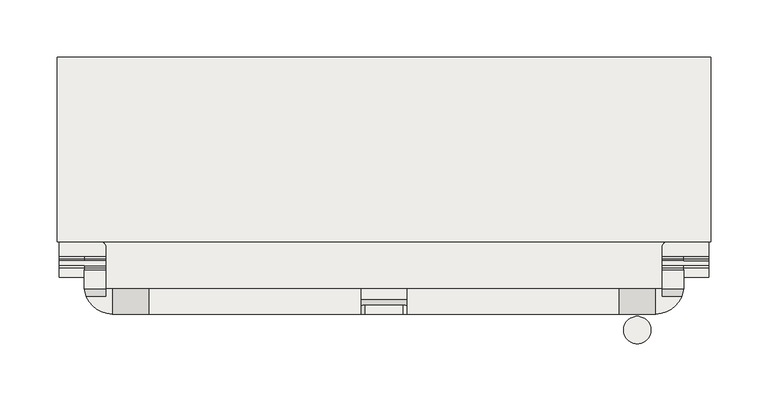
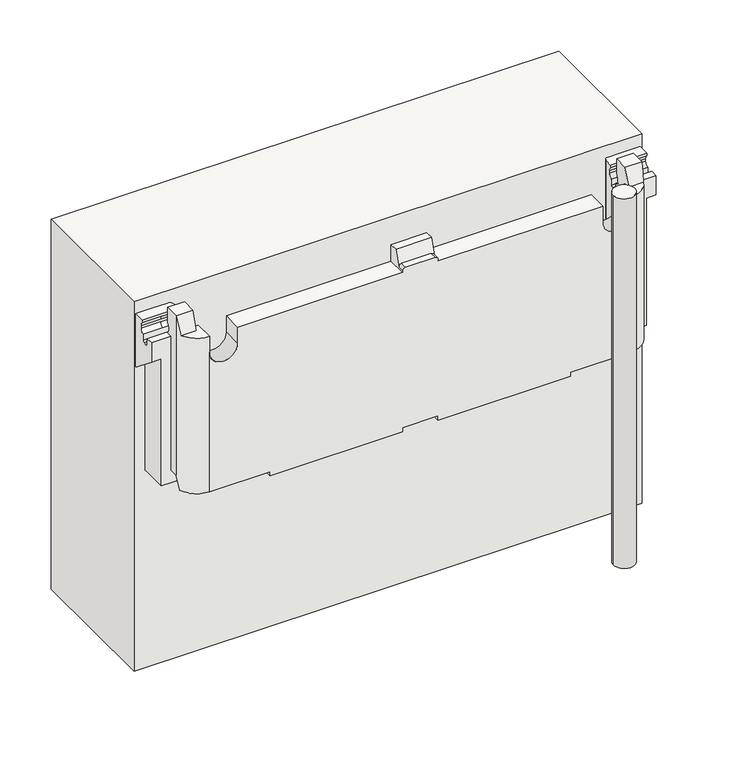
"""IFC4 building model written with IfcOpenShell, lengths in millimetres: covering geometry, panel VP Modulo prova ultima texture : panel VP Modulo prova ultima texture."""

from ifc_helpers import new_model, si_unit, point, frame, frame_2d, origin, origin_with_axes, place, context, project, spatial, polyline, circle_curve, ellipse_curve, trimmed, segment, composite_curve, outline, extrude, source, transform, mapped, element, save
from ifc_brep_helpers import plane_surface, cylinder_surface, revolved_surface, advanced_brep


def covering_c7b0dbd7(model_context):
    return source(origin(), model_context, "Body", "SolidModel", [
        advanced_brep(
        [(-20.0, 40.503817, 440.3791993), (-20.0, 49.5015434, 440.3791993), (-20.0, 49.5015434, 420.3821425), (-20.0, 27.5015432, 420.3821425), (-20.0, 27.5015432, 422.3821424), (-20.0, 34.5021229, 422.3821424), (20.0, 49.5015434, 440.3791993), (20.0, 40.503817, 440.3791993), (20.0, 34.5021229, 422.3821424), (20.0, 27.5015432, 422.3821424), (20.0, 27.5015432, 420.3821425), (20.0, 49.5015434, 420.3821425), (-17.0, 35.5025688, 425.3821424), (17.0, 35.5025688, 425.3821424), (17.0, 27.5015432, 425.3821424), (-17.0, 27.5015432, 425.3821424), (-262.4808119, 49.5015434, 440.3770182), (-262.4808119, 65.772467, 440.3770182), (-262.4808119, 65.772467, 422.4339741), (-262.4808119, 63.7739273, 417.538463), (-262.4808119, 63.7739273, 414.538463), (-262.4808119, 67.7745502, 409.8422632), (-262.4808119, 59.5, 409.8422632), (-262.4808119, 59.5, 250.3778557), (-262.4808119, 49.5015434, 250.3778557), (262.4808119, 67.7745502, 409.8422632), (262.4808119, 63.7739273, 414.538463), (262.4808119, 63.7739273, 417.538463), (262.4808119, 65.772467, 422.4339741), (262.4808119, 65.772467, 440.3770182), (262.4808119, 49.5015434, 440.3770182), (262.4808119, 49.5015434, 250.3778557), (262.4808119, 59.5, 250.3778557), (262.4808119, 59.5, 409.8422632), (205.7808119, 27.5015432, 420.3821425), (205.7808119, 49.5015434, 420.3821425), (243.7808119, 42.6167555, 420.3821425), (243.7808119, 49.5015434, 420.3821425), (237.7808119, 49.5015434, 420.3821425), (237.7808119, 27.5015432, 420.3821425), (260.6550436, 42.6167555, 420.3821425), (-237.7808119, 27.5015432, 420.3821425), (-237.7808119, 49.5015434, 420.3821425), (-243.7808119, 49.5015434, 420.3821425), (-243.7808119, 42.6167555, 420.3821425), (-260.6550436, 42.6167555, 420.3821425), (-205.7808119, 49.5015434, 420.3821425), (-205.7808119, 27.5015432, 420.3821425), (-262.4808119, 109.8415131, 257.378532), (262.4808119, 109.8415131, 257.378532), (262.4808119, 141.2113001, 285.0190246), (-262.4808119, 141.2113001, 285.0190246), (-262.4808119, 147.3447094, 291.4812522), (262.4808119, 147.3447094, 291.4812522), (262.4808119, 184.4941844, 338.3639074), (-262.4808119, 184.4941844, 338.3639074), (262.4808119, 184.4941844, 365.3627622), (-262.4808119, 184.4941844, 365.3627622), (284.4808119, 184.4914281, 365.3627622), (284.4808119, 202.488872, 365.3627622), (-284.4808119, 202.488872, 365.3627622), (-284.4808119, 184.4914281, 365.3627622), (-284.4808119, 202.488872, 325.6494871), (284.4808119, 202.488872, 325.6494871), (262.4808119, 193.4423608, 284.2709563), (-262.4808119, 193.4423608, 284.2709563), (-284.4808119, 193.4423608, 284.2709563), (284.4808119, 193.4423608, 284.2709563), (262.4808119, 190.281945, 283.1432662), (-262.4808119, 190.281945, 283.1432662), (284.4808119, 190.281945, 283.1432662), (284.4808119, 59.5, 386.7739206), (273.4808119, 59.5, 386.7739206), (273.4808119, 180.2456216, 291.0959753), (262.4808119, 180.2456216, 291.0959753), (-262.4808119, 180.2456216, 291.0959753), (-273.4808119, 180.2456216, 291.0959753), (-273.4808119, 59.5, 386.7739206), (-284.4808119, 59.5, 386.7739206), (-284.4808119, 190.281945, 283.1432662), (262.4808119, 174.5899002, 290.4408933), (-262.4808119, 174.5899002, 290.4408933), (273.4808119, 174.5899002, 290.4408933), (273.4808119, 160.5878776, 272.7703691), (-273.4808119, 160.5878776, 272.7703691), (-273.4808119, 174.5899002, 290.4408933), (-273.4808119, 118.1414154, 235.3700156), (273.4808119, 118.1414154, 235.3700156), (237.7808119, 118.1414154, 235.3700156), (197.7808119, 118.1414154, 235.3700156), (20.0, 118.1414154, 235.3700156), (-20.0, 118.1414154, 235.3700156), (-197.7808119, 118.1414154, 235.3700156), (-237.7808119, 118.1414154, 235.3700156), (-273.4808119, 59.5, 235.3821441), (-237.7808119, 78.1414154, 235.3821441), (-197.7808119, 78.1414154, 235.3821441), (-20.0, 78.1414154, 235.3821441), (20.0, 78.1414154, 235.3821441), (197.7808119, 78.1414154, 235.3821441), (237.7808119, 78.1414154, 235.3821441), (273.4808119, 59.5, 235.3821441), (252.4808119, 59.5, 235.3821441), (252.4808119, 44.6291413, 235.3821441), (261.4118126, 44.6291413, 235.3821441), (237.7808119, 27.5015432, 235.3821441), (169.4808119, 27.5015432, 235.3821441), (169.4808119, 67.5015432, 235.3821441), (20.0, 67.5015432, 235.3821441), (20.0, 27.5015432, 235.3821441), (-20.0, 27.5015432, 235.3821441), (-20.0, 67.5015432, 235.3821441), (-169.4808119, 67.5015432, 235.3821441), (-169.4808119, 27.5015432, 235.3821441), (-237.7808119, 27.5015432, 235.3821441), (-261.4118126, 44.6291413, 235.3821441), (-252.4808119, 44.6291413, 235.3821441), (-252.4808119, 59.5, 235.3821441), (-205.7808119, 27.5015432, 401.3586119), (-237.7808119, 27.5015432, 401.3586119), (-169.4808119, 27.5015432, 230.3725587), (-20.0, 27.5015432, 230.3725587), (20.0, 27.5015432, 230.3725587), (169.4808119, 27.5015432, 230.3725587), (237.7808119, 27.5015432, 401.3586119), (205.7808119, 27.5015432, 401.3586119), (-237.7808119, 49.5015434, 401.3586119), (-205.7808119, 49.5015434, 401.3586119), (205.7808119, 49.5015434, 401.3586119), (237.7808119, 49.5015434, 401.3586119), (243.7808119, 49.5015434, 257.378532), (-243.7808119, 49.5015434, 257.378532), (-262.4808119, 101.3665857, 257.378532), (-251.8742102, 90.7599839, 257.378532), (-248.1742102, 90.7599839, 257.378532), (-243.7808119, 86.3665857, 257.378532), (243.7808119, 86.3665857, 257.378532), (248.1742102, 90.7599839, 257.378532), (251.8742102, 90.7599839, 257.378532), (262.4808119, 101.3665857, 257.378532), (-284.4808119, 59.5, 409.8422632), (-284.4808119, 67.7745502, 409.8422632), (-284.4808119, 67.7745502, 402.8424284), (-284.4808119, 69.7745502, 400.8424284), (-284.4808119, 74.0001297, 400.8424284), (-284.4808119, 76.0001297, 402.8424284), (-284.4808119, 76.0001297, 409.8422632), (-284.4808119, 80.0007527, 414.538463), (-284.4808119, 80.0007527, 417.538463), (-284.4808119, 78.002213, 422.4339741), (-284.4808119, 78.002213, 425.3856889), (-284.4808119, 115.166168, 425.3856889), (-284.4808119, 118.166168, 422.3856889), (-284.4808119, 118.166168, 406.1051366), (-284.4808119, 119.6447617, 403.5195374), (-262.4808119, 119.6447617, 403.5195374), (-262.4808119, 118.166168, 406.1051366), (-262.4808119, 118.166168, 422.3856889), (-262.4808119, 115.166168, 425.3856889), (-262.4808119, 101.3665857, 425.3856889), (-252.4808119, 59.5, 250.3778557), (-243.7808119, 67.7745502, 409.8422632), (-243.7808119, 67.7745502, 402.8424284), (-262.4808119, 67.7745502, 402.8424284), (-262.4808119, 69.7745502, 400.8424284), (-243.7808119, 69.7745502, 400.8424284), (-243.7808119, 74.0001297, 400.8424284), (-262.4808119, 74.0001297, 400.8424284), (-262.4808119, 76.0001297, 402.8424284), (-243.7808119, 76.0001297, 402.8424284), (-243.7808119, 76.0001297, 409.8422632), (-262.4808119, 76.0001297, 409.8422632), (-262.4808119, 80.0007527, 414.538463), (-243.7808119, 80.0007527, 414.538463), (-243.7808119, 80.0007527, 417.538463), (-262.4808119, 80.0007527, 417.538463), (-262.4808119, 78.002213, 422.4339741), (-243.7808119, 78.002213, 422.4339741), (-243.7808119, 78.002213, 425.3856889), (-243.7808119, 86.3665857, 425.3856889), (-248.1742102, 90.7599839, 425.3856889), (-251.8742102, 90.7599839, 425.3856889), (-243.7808119, 63.7739273, 414.538463), (-243.7808119, 63.7739273, 417.538463), (-243.7808119, 65.772467, 422.4339741), (-243.7808119, 65.772467, 440.3770182), (-243.7808119, 49.5015434, 440.3770182), (284.4808119, 119.6447617, 403.5195374), (284.4808119, 118.166168, 406.1051366), (284.4808119, 118.166168, 422.3856889), (284.4808119, 115.166168, 425.3856889), (284.4808119, 78.002213, 425.3856889), (284.4808119, 78.002213, 422.4339741), (284.4808119, 80.0007527, 417.538463), (284.4808119, 80.0007527, 414.538463), (284.4808119, 76.0001297, 409.8422632), (284.4808119, 76.0001297, 402.8424284), (284.4808119, 74.0001297, 400.8424284), (284.4808119, 69.7745502, 400.8424284), (284.4808119, 67.7745502, 402.8424284), (284.4808119, 67.7745502, 409.8422632), (284.4808119, 59.5, 409.8422632), (262.4808119, 115.166168, 425.3856889), (262.4808119, 118.166168, 422.3856889), (262.4808119, 118.166168, 406.1051366), (262.4808119, 119.6447617, 403.5195374), (262.4808119, 101.3665857, 425.3856889), (252.4808119, 59.5, 250.3778557), (262.4808119, 69.7745502, 400.8424284), (262.4808119, 67.7745502, 402.8424284), (262.4808119, 76.0001297, 402.8424284), (262.4808119, 74.0001297, 400.8424284), (262.4808119, 80.0007527, 414.538463), (262.4808119, 76.0001297, 409.8422632), (262.4808119, 78.002213, 422.4339741), (262.4808119, 80.0007527, 417.538463), (243.7808119, 49.5015434, 440.3770182), (243.7808119, 65.772467, 440.3770182), (243.7808119, 65.772467, 422.4339741), (243.7808119, 63.7739273, 417.538463), (243.7808119, 63.7739273, 414.538463), (243.7808119, 67.7745502, 409.8422632), (243.7808119, 67.7745502, 402.8424284), (243.7808119, 69.7745502, 400.8424284), (243.7808119, 74.0001297, 400.8424284), (243.7808119, 76.0001297, 402.8424284), (243.7808119, 76.0001297, 409.8422632), (243.7808119, 80.0007527, 414.538463), (243.7808119, 80.0007527, 417.538463), (243.7808119, 78.002213, 422.4339741), (243.7808119, 78.002213, 425.3856889), (243.7808119, 86.3665857, 425.3856889), (251.8742102, 90.7599839, 425.3856889), (248.1742102, 90.7599839, 425.3856889), (237.7808119, 78.1414154, 230.3725587), (197.7808119, 78.1414154, 230.3725587), (197.7808119, 118.1414154, 230.3725587), (237.7808119, 118.1414154, 230.3725587), (-20.0, 78.1414154, 230.3725587), (-20.0, 118.1414154, 230.3725587), (20.0, 118.1414154, 230.3725587), (20.0, 78.1414154, 230.3725587), (-237.7808119, 78.1414154, 230.3725587), (-237.7808119, 118.1414154, 230.3725587), (-197.7808119, 118.1414154, 230.3725587), (-197.7808119, 78.1414154, 230.3725587), (20.0, 67.5015432, 230.3725587), (169.4808119, 67.5015432, 230.3725587), (-20.0, 67.5015432, 230.3725587), (-169.4808119, 67.5015432, 230.3725587), (-252.4808119, 49.5015434, 250.3778557), (252.4808119, 49.5015434, 250.3778557)],
        [
            (0, 1),
            (1, 2),
            (2, 3),
            (3, 4),
            (4, 5),
            (5, 0),
            (6, 7),
            (7, 8),
            (8, 9),
            (9, 10),
            (10, 11),
            (11, 6),
            (0, 7),
            (6, 1),
            (5, 12, ellipse_curve(frame((-17.0, 34.5021229, 422.3821424), z_axis=(0.0, 0.9486409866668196, -0.31635467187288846), x_axis=(0.0, 0.31635467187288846, 0.9486409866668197)), 3.1624187, 3.0)),
            (12, 13),
            (13, 8, ellipse_curve(frame((17.0, 34.5021229, 422.3821424), z_axis=(0.0, 0.9486409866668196, -0.31635467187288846), x_axis=(0.0, 0.31635467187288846, 0.9486409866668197)), 3.1624187, 3.0)),
            (14, 9, circle_curve(frame((17.0, 27.5015432, 422.3821424), z_axis=(0.0, 1.0, 0.0), x_axis=(-1.0, 0.0, 0.0)), 3.0)),
            (13, 14),
            (4, 15, circle_curve(frame((-17.0, 27.5015432, 422.3821424), z_axis=(0.0, 1.0, 0.0), x_axis=(-1.0, 0.0, 0.0)), 3.0)),
            (15, 12),
            (15, 14),
            (16, 17),
            (17, 18),
            (18, 19, circle_curve(frame((-262.4808119, 70.7690822, 417.538463), z_axis=(1.0, 0.0, 0.0), x_axis=(0.0, -1.0, 0.0)), 6.9951549)),
            (19, 20),
            (20, 21, circle_curve(frame((-262.4808119, 68.5305961, 414.538463), z_axis=(1.0, 0.0, 0.0), x_axis=(0.0, -1.0, 0.0)), 4.7566689)),
            (21, 22),
            (22, 23),
            (23, 24),
            (24, 16),
            (25, 26, circle_curve(frame((262.4808119, 68.5305961, 414.538463), z_axis=(-1.0, 0.0, 0.0), x_axis=(0.0, -1.0, 0.0)), 4.7566689)),
            (26, 27),
            (27, 28, circle_curve(frame((262.4808119, 70.7690822, 417.538463), z_axis=(-1.0, 0.0, 0.0), x_axis=(0.0, -1.0, 0.0)), 6.9951549)),
            (28, 29),
            (29, 30),
            (30, 31),
            (31, 32),
            (32, 33),
            (33, 25),
            (10, 34),
            (34, 35),
            (35, 11),
            (36, 37),
            (37, 38),
            (38, 39),
            (39, 40, circle_curve(frame((237.7808119, 52.367225, 420.3821425), z_axis=(0.0, 0.0, 1.0), x_axis=(1.0, 0.0, 0.0)), 24.8656818)),
            (40, 36),
            (41, 42),
            (42, 43),
            (43, 44),
            (44, 45),
            (45, 41, circle_curve(frame((-237.7808119, 52.367225, 420.3821425), z_axis=(0.0, 0.0, 1.0), x_axis=(-1.0, 0.0, 0.0)), 24.8656818)),
            (46, 47),
            (47, 3),
            (2, 46),
            (48, 49),
            (49, 50),
            (50, 51),
            (51, 48),
            (52, 53),
            (53, 54),
            (54, 55),
            (55, 52),
            (54, 56),
            (56, 57),
            (57, 55),
            (56, 58),
            (58, 59),
            (59, 60),
            (60, 61),
            (61, 57),
            (62, 60),
            (59, 63),
            (63, 62),
            (64, 65),
            (65, 66),
            (66, 62),
            (63, 67),
            (67, 64),
            (64, 68, circle_curve(frame((262.4808119, 191.5102381, 284.6933727), z_axis=(-1.0, 0.0, 0.0), x_axis=(0.0, -1.0, 0.0)), 1.9777598)),
            (68, 69),
            (69, 65, circle_curve(frame((-262.4808119, 191.5102381, 284.6933727), z_axis=(1.0, 0.0, 0.0), x_axis=(0.0, -1.0, 0.0)), 1.9777598)),
            (68, 70),
            (70, 71),
            (71, 72),
            (72, 73),
            (73, 74),
            (74, 75),
            (75, 76),
            (76, 77),
            (77, 78),
            (78, 79),
            (79, 69),
            (74, 80, circle_curve(frame((262.4808119, 177.7453022, 287.9405708), z_axis=(1.0, 0.0, 0.0), x_axis=(0.0, -1.0, 0.0)), 4.0259377)),
            (80, 81),
            (81, 75, circle_curve(frame((-262.4808119, 177.7453022, 287.9405708), z_axis=(-1.0, 0.0, 0.0), x_axis=(0.0, -1.0, 0.0)), 4.0259377)),
            (80, 82),
            (82, 83),
            (83, 84),
            (84, 85),
            (85, 81),
            (86, 84),
            (83, 87),
            (87, 88),
            (88, 89),
            (89, 90),
            (90, 91),
            (91, 92),
            (92, 93),
            (93, 86),
            (50, 53, circle_curve(frame((262.4808119, 108.1562691, 322.5338873), z_axis=(1.0, 0.0, 0.0), x_axis=(0.0, -1.0, 0.0)), 50.0)),
            (52, 51, circle_curve(frame((-262.4808119, 108.1562691, 322.5338873), z_axis=(-1.0, 0.0, 0.0), x_axis=(0.0, -1.0, 0.0)), 50.0)),
            (94, 86),
            (93, 95),
            (95, 96),
            (96, 92),
            (91, 97),
            (97, 98),
            (98, 90),
            (89, 99),
            (99, 100),
            (100, 88),
            (87, 101),
            (101, 102),
            (102, 103),
            (103, 104),
            (104, 105, circle_curve(frame((237.7808119, 52.367225, 235.3821441), z_axis=(0.0, 0.0, -1.0), x_axis=(1.0, 0.0, 0.0)), 24.8656818)),
            (105, 106),
            (106, 107),
            (107, 108),
            (108, 109),
            (109, 110),
            (110, 111),
            (111, 112),
            (112, 113),
            (113, 114),
            (114, 115, circle_curve(frame((-237.7808119, 52.367225, 235.3821441), z_axis=(0.0, 0.0, -1.0), x_axis=(-1.0, 0.0, 0.0)), 24.8656818)),
            (115, 116),
            (116, 117),
            (117, 94),
            (47, 118),
            (118, 119, circle_curve(frame((-221.7808119, 27.5015432, 401.3586119), z_axis=(0.0, 1.0, 0.0), x_axis=(-1.0, 0.0, 0.0)), 16.0)),
            (119, 114),
            (113, 120),
            (120, 121),
            (121, 110),
            (109, 122),
            (122, 123),
            (123, 106),
            (105, 124),
            (124, 125, circle_curve(frame((221.7808119, 27.5015432, 401.3586119), z_axis=(0.0, 1.0, 0.0), x_axis=(1.0, 0.0, 0.0)), 16.0)),
            (125, 34),
            (42, 126),
            (126, 127, circle_curve(frame((-221.7808119, 49.5015434, 401.3586119), z_axis=(0.0, -1.0, 0.0), x_axis=(-1.0, 0.0, 0.0)), 16.0)),
            (127, 46),
            (35, 128),
            (128, 129, circle_curve(frame((221.7808119, 49.5015434, 401.3586119), z_axis=(0.0, -1.0, 0.0), x_axis=(1.0, 0.0, 0.0)), 16.0)),
            (129, 38),
            (37, 130),
            (130, 131),
            (131, 43),
            (48, 132),
            (132, 133, circle_curve(frame((-251.8742102, 101.3665857, 257.378532), z_axis=(0.0, 0.0, 1.0), x_axis=(-1.0, 0.0, 0.0)), 10.6066017)),
            (133, 134),
            (134, 135, circle_curve(frame((-248.1742102, 86.3665857, 257.378532), z_axis=(0.0, 0.0, -1.0), x_axis=(-1.0, 0.0, 0.0)), 4.3933983)),
            (135, 131),
            (130, 136),
            (136, 137, circle_curve(frame((248.1742102, 86.3665857, 257.378532), z_axis=(0.0, 0.0, -1.0), x_axis=(1.0, 0.0, 0.0)), 4.3933983)),
            (137, 138),
            (138, 139, circle_curve(frame((251.8742102, 101.3665857, 257.378532), z_axis=(0.0, 0.0, 1.0), x_axis=(1.0, 0.0, 0.0)), 10.6066017)),
            (139, 49),
            (66, 79, circle_curve(frame((-284.4808119, 191.5102381, 284.6933727), z_axis=(-1.0, 0.0, 0.0), x_axis=(0.0, -1.0, 0.0)), 1.9777598)),
            (78, 140),
            (140, 141),
            (141, 142),
            (142, 143, circle_curve(frame((-284.4808119, 69.7745502, 402.8424284), z_axis=(1.0, 0.0, 0.0), x_axis=(0.0, -1.0, 0.0)), 2.0)),
            (143, 144),
            (144, 145, circle_curve(frame((-284.4808119, 74.0001297, 402.8424284), z_axis=(1.0, 0.0, 0.0), x_axis=(0.0, -1.0, 0.0)), 2.0)),
            (145, 146),
            (146, 147, circle_curve(frame((-284.4808119, 75.2440838, 414.538463), z_axis=(1.0, 0.0, 0.0), x_axis=(0.0, -1.0, 0.0)), 4.7566689)),
            (147, 148),
            (148, 149, circle_curve(frame((-284.4808119, 73.0055977, 417.538463), z_axis=(1.0, 0.0, 0.0), x_axis=(0.0, -1.0, 0.0)), 6.9951549)),
            (149, 150),
            (150, 151),
            (151, 152, circle_curve(frame((-284.4808119, 115.166168, 422.3856889), z_axis=(-1.0, 0.0, 0.0), x_axis=(0.0, -1.0, 0.0)), 3.0)),
            (152, 153),
            (153, 154, circle_curve(frame((-284.4808119, 121.166168, 406.1051366), z_axis=(1.0, 0.0, 0.0), x_axis=(0.0, -1.0, 0.0)), 3.0)),
            (154, 61),
            (57, 155),
            (155, 156, circle_curve(frame((-262.4808119, 121.166168, 406.1051366), z_axis=(-1.0, 0.0, 0.0), x_axis=(0.0, -1.0, 0.0)), 3.0)),
            (156, 157),
            (157, 158, circle_curve(frame((-262.4808119, 115.166168, 422.3856889), z_axis=(1.0, 0.0, 0.0), x_axis=(0.0, -1.0, 0.0)), 3.0)),
            (158, 159),
            (159, 132),
            (77, 94),
            (117, 160),
            (160, 23),
            (22, 140),
            (141, 21),
            (21, 161),
            (161, 162),
            (162, 163),
            (163, 142),
            (163, 164, circle_curve(frame((-262.4808119, 69.7745502, 402.8424284), z_axis=(1.0, 0.0, 0.0), x_axis=(0.0, -1.0, 0.0)), 2.0)),
            (164, 143),
            (164, 165),
            (165, 166),
            (166, 167),
            (167, 144),
            (167, 168, circle_curve(frame((-262.4808119, 74.0001297, 402.8424284), z_axis=(1.0, 0.0, 0.0), x_axis=(0.0, -1.0, 0.0)), 2.0)),
            (168, 145),
            (168, 169),
            (169, 170),
            (170, 171),
            (171, 146),
            (171, 172, circle_curve(frame((-262.4808119, 75.2440838, 414.538463), z_axis=(1.0, 0.0, 0.0), x_axis=(0.0, -1.0, 0.0)), 4.7566689)),
            (172, 147),
            (172, 173),
            (173, 174),
            (174, 175),
            (175, 148),
            (175, 176, circle_curve(frame((-262.4808119, 73.0055977, 417.538463), z_axis=(1.0, 0.0, 0.0), x_axis=(0.0, -1.0, 0.0)), 6.9951549)),
            (176, 149),
            (176, 177),
            (177, 178),
            (178, 150),
            (178, 179),
            (179, 180, circle_curve(frame((-248.1742102, 86.3665857, 425.3856889), z_axis=(0.0, 0.0, 1.0), x_axis=(-1.0, 0.0, 0.0)), 4.3933983)),
            (180, 181),
            (181, 159, circle_curve(frame((-251.8742102, 101.3665857, 425.3856889), z_axis=(0.0, 0.0, -1.0), x_axis=(-1.0, 0.0, 0.0)), 10.6066017)),
            (158, 151),
            (157, 152),
            (156, 153),
            (155, 154),
            (76, 85, circle_curve(frame((-273.4808119, 177.7453022, 287.9405708), z_axis=(1.0, 0.0, 0.0), x_axis=(0.0, -1.0, 0.0)), 4.0259377)),
            (45, 16, ellipse_curve(frame((-237.7808119, 52.367225, 448.6995619), z_axis=(0.0, 0.9455185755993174, -0.32556815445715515), x_axis=(0.0, -0.3255681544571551, -0.9455185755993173)), 76.3762716, 24.8656818)),
            (24, 115, ellipse_curve(frame((-237.7808119, 52.367225, 259.1975168), z_axis=(0.0, -0.9510565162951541, 0.3090169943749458), x_axis=(0.0, -0.30901699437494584, -0.9510565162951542)), 80.4670366, 24.8656818)),
            (119, 41),
            (177, 174, circle_curve(frame((-243.7808119, 73.0055977, 417.538463), z_axis=(-1.0, 0.0, 0.0), x_axis=(0.0, -1.0, 0.0)), 6.9951549)),
            (173, 170, circle_curve(frame((-243.7808119, 75.2440838, 414.538463), z_axis=(-1.0, 0.0, 0.0), x_axis=(0.0, -1.0, 0.0)), 4.7566689)),
            (169, 166, circle_curve(frame((-243.7808119, 74.0001297, 402.8424284), z_axis=(-1.0, 0.0, 0.0), x_axis=(0.0, -1.0, 0.0)), 2.0)),
            (165, 162, circle_curve(frame((-243.7808119, 69.7745502, 402.8424284), z_axis=(-1.0, 0.0, 0.0), x_axis=(0.0, -1.0, 0.0)), 2.0)),
            (161, 182, circle_curve(frame((-243.7808119, 68.5305961, 414.538463), z_axis=(-1.0, 0.0, 0.0), x_axis=(0.0, -1.0, 0.0)), 4.7566689)),
            (182, 183),
            (183, 184, circle_curve(frame((-243.7808119, 70.7690822, 417.538463), z_axis=(-1.0, 0.0, 0.0), x_axis=(0.0, -1.0, 0.0)), 6.9951549)),
            (184, 185),
            (185, 186),
            (186, 44),
            (135, 179),
            (16, 186),
            (185, 17),
            (184, 18),
            (183, 19),
            (182, 20),
            (134, 180),
            (133, 181),
            (39, 124),
            (104, 31, ellipse_curve(frame((237.7808119, 52.367225, 259.1975168), z_axis=(0.0, -0.9510565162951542, 0.3090169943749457), x_axis=(0.0, -0.3090169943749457, -0.9510565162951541)), 80.4670366, 24.8656818)),
            (30, 40, ellipse_curve(frame((237.7808119, 52.367225, 448.6995619), z_axis=(0.0, 0.9455185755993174, -0.3255681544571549), x_axis=(0.0, -0.3255681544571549, -0.9455185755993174)), 76.3762716, 24.8656818)),
            (58, 187),
            (187, 188, circle_curve(frame((284.4808119, 121.166168, 406.1051366), z_axis=(-1.0, 0.0, 0.0), x_axis=(0.0, -1.0, 0.0)), 3.0)),
            (188, 189),
            (189, 190, circle_curve(frame((284.4808119, 115.166168, 422.3856889), z_axis=(1.0, 0.0, 0.0), x_axis=(0.0, -1.0, 0.0)), 3.0)),
            (190, 191),
            (191, 192),
            (192, 193, circle_curve(frame((284.4808119, 73.0055977, 417.538463), z_axis=(-1.0, 0.0, 0.0), x_axis=(0.0, -1.0, 0.0)), 6.9951549)),
            (193, 194),
            (194, 195, circle_curve(frame((284.4808119, 75.2440838, 414.538463), z_axis=(-1.0, 0.0, 0.0), x_axis=(0.0, -1.0, 0.0)), 4.7566689)),
            (195, 196),
            (196, 197, circle_curve(frame((284.4808119, 74.0001297, 402.8424284), z_axis=(-1.0, 0.0, 0.0), x_axis=(0.0, -1.0, 0.0)), 2.0)),
            (197, 198),
            (198, 199, circle_curve(frame((284.4808119, 69.7745502, 402.8424284), z_axis=(-1.0, 0.0, 0.0), x_axis=(0.0, -1.0, 0.0)), 2.0)),
            (199, 200),
            (200, 201),
            (201, 71),
            (70, 67, circle_curve(frame((284.4808119, 191.5102381, 284.6933727), z_axis=(1.0, 0.0, 0.0), x_axis=(0.0, -1.0, 0.0)), 1.9777598)),
            (202, 203, circle_curve(frame((262.4808119, 115.166168, 422.3856889), z_axis=(-1.0, 0.0, 0.0), x_axis=(0.0, -1.0, 0.0)), 3.0)),
            (203, 204),
            (204, 205, circle_curve(frame((262.4808119, 121.166168, 406.1051366), z_axis=(1.0, 0.0, 0.0), x_axis=(0.0, -1.0, 0.0)), 3.0)),
            (205, 56),
            (139, 206),
            (206, 202),
            (201, 33),
            (32, 207),
            (207, 102),
            (101, 72),
            (198, 208),
            (208, 209, circle_curve(frame((262.4808119, 69.7745502, 402.8424284), z_axis=(-1.0, 0.0, 0.0), x_axis=(0.0, -1.0, 0.0)), 2.0)),
            (209, 199),
            (196, 210),
            (210, 211, circle_curve(frame((262.4808119, 74.0001297, 402.8424284), z_axis=(-1.0, 0.0, 0.0), x_axis=(0.0, -1.0, 0.0)), 2.0)),
            (211, 197),
            (194, 212),
            (212, 213, circle_curve(frame((262.4808119, 75.2440838, 414.538463), z_axis=(-1.0, 0.0, 0.0), x_axis=(0.0, -1.0, 0.0)), 4.7566689)),
            (213, 195),
            (192, 214),
            (214, 215, circle_curve(frame((262.4808119, 73.0055977, 417.538463), z_axis=(-1.0, 0.0, 0.0), x_axis=(0.0, -1.0, 0.0)), 6.9951549)),
            (215, 193),
            (189, 203),
            (202, 190),
            (188, 204),
            (187, 205),
            (200, 25),
            (36, 216),
            (216, 217),
            (217, 218),
            (218, 219, circle_curve(frame((243.7808119, 70.7690822, 417.538463), z_axis=(1.0, 0.0, 0.0), x_axis=(0.0, -1.0, 0.0)), 6.9951549)),
            (219, 220),
            (220, 221, circle_curve(frame((243.7808119, 68.5305961, 414.538463), z_axis=(1.0, 0.0, 0.0), x_axis=(0.0, -1.0, 0.0)), 4.7566689)),
            (221, 222),
            (222, 223, circle_curve(frame((243.7808119, 69.7745502, 402.8424284), z_axis=(1.0, 0.0, 0.0), x_axis=(0.0, -1.0, 0.0)), 2.0)),
            (223, 224),
            (224, 225, circle_curve(frame((243.7808119, 74.0001297, 402.8424284), z_axis=(1.0, 0.0, 0.0), x_axis=(0.0, -1.0, 0.0)), 2.0)),
            (225, 226),
            (226, 227, circle_curve(frame((243.7808119, 75.2440838, 414.538463), z_axis=(1.0, 0.0, 0.0), x_axis=(0.0, -1.0, 0.0)), 4.7566689)),
            (227, 228),
            (228, 229, circle_curve(frame((243.7808119, 73.0055977, 417.538463), z_axis=(1.0, 0.0, 0.0), x_axis=(0.0, -1.0, 0.0)), 6.9951549)),
            (229, 230),
            (230, 231),
            (231, 136),
            (221, 25),
            (209, 222),
            (208, 223),
            (29, 217),
            (216, 30),
            (28, 218),
            (27, 219),
            (26, 220),
            (211, 224),
            (210, 225),
            (213, 226),
            (212, 227),
            (215, 228),
            (214, 229),
            (191, 230),
            (206, 232, circle_curve(frame((251.8742102, 101.3665857, 425.3856889), z_axis=(0.0, 0.0, -1.0), x_axis=(1.0, 0.0, 0.0)), 10.6066017)),
            (232, 233),
            (233, 231, circle_curve(frame((248.1742102, 86.3665857, 425.3856889), z_axis=(0.0, 0.0, 1.0), x_axis=(1.0, 0.0, 0.0)), 4.3933983)),
            (233, 137),
            (232, 138),
            (119, 126),
            (127, 118),
            (129, 124),
            (125, 128),
            (82, 73, circle_curve(frame((273.4808119, 177.7453022, 287.9405708), z_axis=(-1.0, 0.0, 0.0), x_axis=(0.0, -1.0, 0.0)), 4.0259377)),
            (234, 235),
            (235, 236),
            (236, 237),
            (237, 234),
            (234, 100),
            (99, 235),
            (89, 236),
            (88, 237),
            (238, 239),
            (239, 240),
            (240, 241),
            (241, 238),
            (241, 98),
            (97, 238),
            (240, 90),
            (239, 91),
            (242, 243),
            (243, 244),
            (244, 245),
            (245, 242),
            (245, 96),
            (95, 242),
            (244, 92),
            (243, 93),
            (246, 247),
            (247, 123),
            (122, 246),
            (248, 121),
            (120, 249),
            (249, 248),
            (108, 246),
            (247, 107),
            (249, 112),
            (111, 248),
            (250, 160),
            (116, 250),
            (250, 24),
            (251, 103),
            (207, 251),
            (31, 251),
        ],
        [
            plane_surface(frame((-20.0, 49.5042184, 440.3791993), z_axis=(-1.0, 0.0, 0.0), x_axis=(0.0, 1.0, 0.0))),
            plane_surface(frame((20.0, 49.5042184, 440.3791993), z_axis=(1.0, 0.0, 0.0), x_axis=(0.0, -1.0, 0.0))),
            plane_surface(frame((-20.0, 40.503817, 440.3791993), z_axis=(0.0, 0.0, 1.0), x_axis=(1.0, 0.0, 0.0))),
            plane_surface(frame((-20.0, 33.835159, 420.3821425), z_axis=(0.0, -0.9486409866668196, 0.31635467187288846), x_axis=(1.0, 0.0, 0.0))),
            cylinder_surface(frame((17.0, 27.5015432, 422.3821424), z_axis=(0.0, 1.0, 0.0), x_axis=(-1.0, 0.0, 0.0)), 3.0),
            cylinder_surface(frame((-17.0, 27.5015432, 422.3821424), z_axis=(0.0, 1.0, 0.0), x_axis=(-1.0, 0.0, 0.0)), 3.0),
            plane_surface(frame((-17.0, 49.501543, 425.3821424), z_axis=(0.0, 0.0, 1.0), x_axis=(0.0, -1.0, 0.0))),
            plane_surface(frame((-262.4808119, 118.1414154, 235.3700156), z_axis=(-1.0, 0.0, 0.0), x_axis=(0.0, -0.7502972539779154, -0.6611006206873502))),
            plane_surface(frame((262.4808119, 118.1414154, 235.3700156), z_axis=(1.0, 0.0, 0.0), x_axis=(0.0, 0.7502972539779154, 0.6611006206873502))),
            plane_surface(frame((-262.4808119, 27.5015432, 420.3821425), z_axis=(0.0, 0.0, 1.0), x_axis=(1.0, 0.0, 0.0))),
            plane_surface(frame((-262.4808119, 109.8415131, 257.378532), z_axis=(0.0, -0.6611006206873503, 0.7502972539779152), x_axis=(1.0, 0.0, 0.0))),
            plane_surface(frame((-262.4808119, 147.3447094, 291.4812522), z_axis=(0.0, -0.7837688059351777, 0.6210527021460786), x_axis=(1.0, 0.0, 0.0))),
            plane_surface(frame((-262.4808119, 184.4941844, 338.3639074), z_axis=(0.0, -1.0, 0.0), x_axis=(1.0, 0.0, 0.0))),
            plane_surface(frame((-262.4808119, 184.4941844, 365.3627622), z_axis=(0.0, 0.0, 1.0), x_axis=(1.0, 0.0, 0.0))),
            plane_surface(frame((-262.4808119, 202.488872, 365.3627622), z_axis=(0.0, 1.0, 0.0), x_axis=(1.0, 0.0, 0.0))),
            plane_surface(frame((-262.4808119, 202.488872, 325.6494871), z_axis=(0.0, 0.9769248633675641, -0.21358326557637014), x_axis=(1.0, 0.0, 0.0))),
            cylinder_surface(frame((262.4808119, 191.5102381, 284.6933727), z_axis=(-1.0, 0.0, 0.0), x_axis=(0.0, -1.0, 0.0)), 1.9777598),
            plane_surface(frame((-262.4808119, 190.281945, 283.1432662), z_axis=(0.0, -0.6210526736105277, -0.7837688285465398), x_axis=(1.0, 0.0, 0.0))),
            revolved_surface(polyline([(262.4808119, 173.71936449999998, 287.9405708), (-262.4808119, 173.71936449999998, 287.9405708)]), (262.4808119, 177.7453022, 287.9405708), (1.0, 0.0, 0.0)),
            plane_surface(frame((-262.4808119, 174.5899002, 290.4408933), z_axis=(0.0, 0.7837682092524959, -0.6210534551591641), x_axis=(1.0, 0.0, 0.0))),
            plane_surface(frame((-262.4808119, 160.5878776, 272.7703691), z_axis=(0.0, 0.6611006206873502, -0.7502972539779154), x_axis=(1.0, 0.0, 0.0))),
            revolved_surface(polyline([(262.4808119, 58.1562691, 322.5338873), (-262.4808119, 58.1562691, 322.5338873)]), (262.4808119, 108.1562691, 322.5338873), (1.0, 0.0, 0.0)),
            plane_surface(frame((-262.4808119, 118.1551803, 235.3821441), z_axis=(0.0, 0.0, -1.0), x_axis=(1.0, 0.0, 0.0))),
            plane_surface(frame((-262.4808119, 27.5015432, 235.3821441), z_axis=(0.0, -1.0, 0.0), x_axis=(1.0, 0.0, 0.0))),
            plane_surface(frame((-262.4808119, 49.5015434, 420.3821425), z_axis=(0.0, 1.0, 0.0), x_axis=(1.0, 0.0, 0.0))),
            plane_surface(frame((-262.4808119, 49.5015434, 257.378532), z_axis=(0.0, 0.0, 1.0), x_axis=(1.0, 0.0, 0.0))),
            plane_surface(frame((-284.4808119, 202.488872, 325.6494871), z_axis=(-1.0000000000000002, 0.0, 0.0), x_axis=(0.0, -0.21358326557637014, -0.9769248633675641))),
            plane_surface(frame((-262.4808119, 202.488872, 325.6494871), z_axis=(1.0000000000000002, 0.0, 0.0), x_axis=(0.0, 0.21358326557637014, 0.9769248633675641))),
            cylinder_surface(frame((-262.4808119, 191.5102381, 284.6933727), z_axis=(-1.0, 0.0, 0.0), x_axis=(0.0, -1.0, 0.0)), 1.9777598),
            plane_surface(frame((-284.4808119, 59.5, 386.7739206), z_axis=(0.0, -1.0, 0.0), x_axis=(1.0, 0.0, 0.0))),
            plane_surface(frame((-284.4808119, 67.7745502, 409.8422632), z_axis=(0.0, 1.0, 0.0), x_axis=(1.0, 0.0, 0.0))),
            revolved_surface(polyline([(-262.4808119, 67.7745502, 402.8424284), (-284.4808119, 67.7745502, 402.8424284)]), (-262.4808119, 69.7745502, 402.8424284), (1.0, 0.0, 0.0)),
            plane_surface(frame((-284.4808119, 69.7745502, 400.8424284), z_axis=(0.0, 0.0, 1.0), x_axis=(1.0, 0.0, 0.0))),
            revolved_surface(polyline([(-262.4808119, 72.0001297, 402.8424284), (-284.4808119, 72.0001297, 402.8424284)]), (-262.4808119, 74.0001297, 402.8424284), (1.0, 0.0, 0.0)),
            plane_surface(frame((-284.4808119, 76.0001297, 402.8424284), z_axis=(0.0, -1.0, 0.0), x_axis=(1.0, 0.0, 0.0))),
            revolved_surface(polyline([(-262.4808119, 70.4874149, 414.538463), (-284.4808119, 70.4874149, 414.538463)]), (-262.4808119, 75.2440838, 414.538463), (1.0, 0.0, 0.0)),
            plane_surface(frame((-284.4808119, 80.0007527, 414.538463), z_axis=(0.0, -1.0, 0.0), x_axis=(1.0, 0.0, 0.0))),
            revolved_surface(polyline([(-262.4808119, 66.01044279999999, 417.538463), (-284.4808119, 66.01044279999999, 417.538463)]), (-262.4808119, 73.0055977, 417.538463), (1.0, 0.0, 0.0)),
            plane_surface(frame((-284.4808119, 78.002213, 422.4339741), z_axis=(0.0, -1.0, 0.0), x_axis=(1.0, 0.0, 0.0))),
            plane_surface(frame((-284.4808119, 78.002213, 425.3856889), z_axis=(0.0, 0.0, 1.0), x_axis=(1.0, 0.0, 0.0))),
            cylinder_surface(frame((-262.4808119, 115.166168, 422.3856889), z_axis=(-1.0, 0.0, 0.0), x_axis=(0.0, -1.0, 0.0)), 3.0),
            plane_surface(frame((-284.4808119, 118.166168, 422.3856889), z_axis=(0.0, 1.0, 0.0), x_axis=(1.0, 0.0, 0.0))),
            revolved_surface(polyline([(-262.4808119, 118.166168, 406.1051366), (-284.4808119, 118.166168, 406.1051366)]), (-262.4808119, 121.166168, 406.1051366), (1.0, 0.0, 0.0)),
            plane_surface(frame((-284.4808119, 119.6447617, 403.5195374), z_axis=(0.0, 0.5071354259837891, 0.8618663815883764), x_axis=(1.0, 0.0, 0.0))),
            plane_surface(frame((-284.4808119, 59.5, 409.8422632), z_axis=(0.0, 0.0, 1.0), x_axis=(1.0, 0.0, 0.0))),
            plane_surface(frame((-273.4808119, 174.5899002, 290.4408933), z_axis=(-1.0, 0.0, 0.0), x_axis=(0.0, -0.6210534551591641, -0.7837682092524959))),
            revolved_surface(polyline([(-262.4808119, 173.71936449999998, 287.9405708), (-273.4808119, 173.71936449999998, 287.9405708)]), (-262.4808119, 177.7453022, 287.9405708), (1.0, 0.0, 0.0)),
            cylinder_surface(frame((-237.7808119, 52.367225, 230.3725587), z_axis=(0.0, 0.0, -1.0), x_axis=(-1.0, 0.0, 0.0)), 24.8656818),
            plane_surface(frame((-243.7808119, 33.2976457, 420.3821425), z_axis=(1.0, 0.0, 0.0), x_axis=(0.0, 1.0, 0.0))),
            revolved_surface(polyline([(-243.7808119, 67.7745502, 402.8424284), (-262.4808119, 67.7745502, 402.8424284)]), (-243.7808119, 69.7745502, 402.8424284), (1.0, 0.0, 0.0)),
            plane_surface(frame((-262.4808119, 49.5015434, 440.3770182), z_axis=(0.0, 0.0, 1.0), x_axis=(1.0, 0.0, 0.0))),
            plane_surface(frame((-262.4808119, 65.772467, 440.3770182), z_axis=(0.0, 1.0, 0.0), x_axis=(1.0, 0.0, 0.0))),
            revolved_surface(polyline([(-243.7808119, 63.7739273, 417.538463), (-262.4808119, 63.7739273, 417.538463)]), (-243.7808119, 70.7690822, 417.538463), (1.0, 0.0, 0.0)),
            plane_surface(frame((-262.4808119, 63.7739273, 417.538463), z_axis=(0.0, 1.0, 0.0), x_axis=(1.0, 0.0, 0.0))),
            revolved_surface(polyline([(-243.7808119, 63.773927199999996, 414.538463), (-262.4808119, 63.773927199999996, 414.538463)]), (-243.7808119, 68.5305961, 414.538463), (1.0, 0.0, 0.0)),
            revolved_surface(polyline([(-243.7808119, 72.0001297, 402.8424284), (-262.4808119, 72.0001297, 402.8424284)]), (-243.7808119, 74.0001297, 402.8424284), (1.0, 0.0, 0.0)),
            revolved_surface(polyline([(-243.7808119, 70.4874149, 414.538463), (-262.4808119, 70.4874149, 414.538463)]), (-243.7808119, 75.2440838, 414.538463), (1.0, 0.0, 0.0)),
            revolved_surface(polyline([(-243.7808119, 66.01044279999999, 417.538463), (-262.4808119, 66.01044279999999, 417.538463)]), (-243.7808119, 73.0055977, 417.538463), (1.0, 0.0, 0.0)),
            plane_surface(frame((-262.4808119, 42.6167555, 420.3821425), z_axis=(0.0, -0.9455185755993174, 0.32556815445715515), x_axis=(1.0, 0.0, 0.0))),
            cylinder_surface(frame((-248.1742102, 86.3665857, 257.378532), z_axis=(0.0, 0.0, 1.0), x_axis=(-1.0, 0.0, 0.0)), 4.3933983),
            plane_surface(frame((-248.1742102, 90.7599839, 425.3856889), z_axis=(0.0, 1.0, 0.0), x_axis=(0.0, 0.0, -1.0))),
            revolved_surface(polyline([(-262.4808119, 101.3665857, 257.378532), (-262.4808119, 101.3665857, 425.3856889)]), (-251.8742102, 101.3665857, 257.378532), (0.0, 0.0, -1.0)),
            cylinder_surface(frame((237.7808119, 52.367225, 230.3725587), z_axis=(0.0, 0.0, -1.0), x_axis=(1.0, 0.0, 0.0)), 24.8656818),
            plane_surface(frame((284.4808119, 202.488872, 365.3627622), z_axis=(1.0, 0.0, 0.0), x_axis=(0.0, 0.0, 1.0))),
            plane_surface(frame((262.4808119, 202.488872, 365.3627622), z_axis=(-1.0, 0.0, 0.0), x_axis=(0.0, 0.0, -1.0))),
            cylinder_surface(frame((262.4808119, 191.5102381, 284.6933727), z_axis=(1.0, 0.0, 0.0), x_axis=(0.0, -1.0, 0.0)), 1.9777598),
            plane_surface(frame((284.4808119, 59.5, 409.8422632), z_axis=(0.0, -1.0, 0.0), x_axis=(-1.0, 0.0, 0.0))),
            revolved_surface(polyline([(262.4808119, 67.7745502, 402.8424284), (284.4808119, 67.7745502, 402.8424284)]), (262.4808119, 69.7745502, 402.8424284), (-1.0, 0.0, 0.0)),
            revolved_surface(polyline([(262.4808119, 72.0001297, 402.8424284), (284.4808119, 72.0001297, 402.8424284)]), (262.4808119, 74.0001297, 402.8424284), (-1.0, 0.0, 0.0)),
            revolved_surface(polyline([(262.4808119, 70.4874149, 414.538463), (284.4808119, 70.4874149, 414.538463)]), (262.4808119, 75.2440838, 414.538463), (-1.0, 0.0, 0.0)),
            revolved_surface(polyline([(262.4808119, 66.01044279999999, 417.538463), (284.4808119, 66.01044279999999, 417.538463)]), (262.4808119, 73.0055977, 417.538463), (-1.0, 0.0, 0.0)),
            cylinder_surface(frame((262.4808119, 115.166168, 422.3856889), z_axis=(1.0, 0.0, 0.0), x_axis=(0.0, -1.0, 0.0)), 3.0),
            plane_surface(frame((284.4808119, 118.166168, 406.1051366), z_axis=(0.0, 1.0, 0.0), x_axis=(-1.0, 0.0, 0.0))),
            revolved_surface(polyline([(262.4808119, 118.166168, 406.1051366), (284.4808119, 118.166168, 406.1051366)]), (262.4808119, 121.166168, 406.1051366), (-1.0, 0.0, 0.0)),
            plane_surface(frame((284.4808119, 184.4914281, 365.3627622), z_axis=(0.0, 0.5071354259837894, 0.8618663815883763), x_axis=(-1.0, 0.0, 0.0))),
            plane_surface(frame((284.4808119, 67.7745502, 409.8422632), z_axis=(0.0, 0.0, 1.0), x_axis=(-1.0, 0.0, 0.0))),
            plane_surface(frame((243.7808119, 49.5015434, 115.0392806), z_axis=(-1.0, 0.0, 0.0), x_axis=(0.0, 0.0, 1.0))),
            plane_surface(frame((262.4808119, 67.7745502, 402.8424284), z_axis=(0.0, 1.0, 0.0), x_axis=(-1.0, 0.0, 0.0))),
            revolved_surface(polyline([(243.7808119, 67.7745502, 402.8424284), (262.4808119, 67.7745502, 402.8424284)]), (243.7808119, 69.7745502, 402.8424284), (-1.0, 0.0, 0.0)),
            plane_surface(frame((262.4808119, 65.772467, 440.3770182), z_axis=(0.0, 0.0, 1.0), x_axis=(-1.0, 0.0, 0.0))),
            plane_surface(frame((262.4808119, 65.772467, 422.4339741), z_axis=(0.0, 1.0, 0.0), x_axis=(-1.0, 0.0, 0.0))),
            revolved_surface(polyline([(243.7808119, 63.7739273, 417.538463), (262.4808119, 63.7739273, 417.538463)]), (243.7808119, 70.7690822, 417.538463), (-1.0, 0.0, 0.0)),
            plane_surface(frame((262.4808119, 63.7739273, 414.538463), z_axis=(0.0, 1.0, 0.0), x_axis=(-1.0, 0.0, 0.0))),
            revolved_surface(polyline([(243.7808119, 63.773927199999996, 414.538463), (262.4808119, 63.773927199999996, 414.538463)]), (243.7808119, 68.5305961, 414.538463), (-1.0, 0.0, 0.0)),
            plane_surface(frame((262.4808119, 74.0001297, 400.8424284), z_axis=(0.0, 0.0, 1.0), x_axis=(-1.0, 0.0, 0.0))),
            revolved_surface(polyline([(243.7808119, 72.0001297, 402.8424284), (262.4808119, 72.0001297, 402.8424284)]), (243.7808119, 74.0001297, 402.8424284), (-1.0, 0.0, 0.0)),
            plane_surface(frame((262.4808119, 76.0001297, 409.8422632), z_axis=(0.0, -1.0, 0.0), x_axis=(-1.0, 0.0, 0.0))),
            revolved_surface(polyline([(243.7808119, 70.4874149, 414.538463), (262.4808119, 70.4874149, 414.538463)]), (243.7808119, 75.2440838, 414.538463), (-1.0, 0.0, 0.0)),
            plane_surface(frame((262.4808119, 80.0007527, 417.538463), z_axis=(0.0, -1.0, 0.0), x_axis=(-1.0, 0.0, 0.0))),
            revolved_surface(polyline([(243.7808119, 66.01044279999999, 417.538463), (262.4808119, 66.01044279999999, 417.538463)]), (243.7808119, 73.0055977, 417.538463), (-1.0, 0.0, 0.0)),
            plane_surface(frame((262.4808119, 78.002213, 425.3856889), z_axis=(0.0, -1.0, 0.0), x_axis=(-1.0, 0.0, 0.0))),
            plane_surface(frame((262.4808119, 86.3665857, 425.3856889), z_axis=(0.0, 0.0, 1.0), x_axis=(-1.0, 0.0, 0.0))),
            plane_surface(frame((262.4808119, 49.5015434, 440.3770182), z_axis=(0.0, -0.9455185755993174, 0.3255681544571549), x_axis=(-1.0, 0.0, 0.0))),
            cylinder_surface(frame((248.1742102, 86.3665857, 257.378532), z_axis=(0.0, 0.0, 1.0), x_axis=(1.0, 0.0, 0.0)), 4.3933983),
            plane_surface(frame((251.8742102, 90.7599839, 425.3856889), z_axis=(0.0, 1.0, 0.0), x_axis=(0.0, 0.0, -1.0))),
            revolved_surface(polyline([(262.4808119, 101.3665857, 257.378532), (262.4808119, 101.3665857, 425.3856889)]), (251.8742102, 101.3665857, 257.378532), (0.0, 0.0, -1.0)),
            plane_surface(frame((-237.7808119, 76.0001297, 401.3586119), z_axis=(1.0, 0.0, 0.0), x_axis=(0.0, -1.0, 0.0))),
            plane_surface(frame((-205.7808119, 76.0001297, 432.2888218), z_axis=(-1.0, 0.0, 0.0), x_axis=(0.0, -1.0, 0.0))),
            revolved_surface(polyline([(-237.7808119, 49.5015434, 401.3586119), (-237.7808119, 27.5015432, 401.3586119)]), (-221.7808119, -1.8695967, 401.3586119), (0.0, 1.0, 0.0)),
            plane_surface(frame((237.7808119, 76.0001297, 432.2888218), z_axis=(-1.0, 0.0, 0.0), x_axis=(0.0, -1.0, 0.0))),
            plane_surface(frame((205.7808119, 76.0001297, 401.3586119), z_axis=(1.0, 0.0, 0.0), x_axis=(0.0, -1.0, 0.0))),
            revolved_surface(polyline([(237.7808119, 49.5015434, 401.3586119), (237.7808119, 27.5015432, 401.3586119)]), (221.7808119, -1.8695967, 401.3586119), (0.0, 1.0, 0.0)),
            plane_surface(frame((273.4808119, 173.7193644, 287.9405708), z_axis=(1.0, 0.0, 0.0), x_axis=(0.0, 0.0, 1.0))),
            revolved_surface(polyline([(262.4808119, 173.71936449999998, 287.9405708), (273.4808119, 173.71936449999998, 287.9405708)]), (262.4808119, 177.7453022, 287.9405708), (-1.0, 0.0, 0.0)),
            plane_surface(frame((237.7808119, 78.1414154, 230.3725587), z_axis=(0.0, 0.0, -1.0), x_axis=(0.0, -1.0, 0.0))),
            plane_surface(frame((197.7808119, 78.1414154, 235.364065), z_axis=(0.0, -1.0, 0.0), x_axis=(0.0, 0.0, -1.0))),
            plane_surface(frame((197.7808119, 118.1414154, 235.364065), z_axis=(-1.0, 0.0, 0.0), x_axis=(0.0, 0.0, -1.0))),
            plane_surface(frame((237.7808119, 118.1414154, 235.364065), z_axis=(0.0, 1.0, 0.0), x_axis=(0.0, 0.0, -1.0))),
            plane_surface(frame((237.7808119, 78.1414154, 235.364065), z_axis=(1.0, 0.0, 0.0), x_axis=(0.0, 0.0, -1.0))),
            plane_surface(frame((20.0, 78.1414154, 230.3725587), z_axis=(0.0, 0.0, -1.0), x_axis=(-1.0, 0.0, 0.0))),
            plane_surface(frame((-20.0, 78.1414154, 235.364065), z_axis=(0.0, -1.0, 0.0), x_axis=(0.0, 0.0, -1.0))),
            plane_surface(frame((20.0, 78.1414154, 235.364065), z_axis=(1.0, 0.0, 0.0), x_axis=(0.0, 0.0, -1.0))),
            plane_surface(frame((20.0, 118.1414154, 235.364065), z_axis=(0.0, 1.0, 0.0), x_axis=(0.0, 0.0, -1.0))),
            plane_surface(frame((-20.0, 118.1414154, 235.364065), z_axis=(-1.0, 0.0, 0.0), x_axis=(0.0, 0.0, -1.0))),
            plane_surface(frame((-197.7808119, 78.1414154, 230.3725587), z_axis=(0.0, 0.0, -1.0), x_axis=(-1.0, 0.0, 0.0))),
            plane_surface(frame((-237.7808119, 78.1414154, 235.364065), z_axis=(0.0, -1.0, 0.0), x_axis=(0.0, 0.0, -1.0))),
            plane_surface(frame((-197.7808119, 78.1414154, 235.364065), z_axis=(1.0, 0.0, 0.0), x_axis=(0.0, 0.0, -1.0))),
            plane_surface(frame((-197.7808119, 118.1414154, 235.364065), z_axis=(0.0, 1.0, 0.0), x_axis=(0.0, 0.0, -1.0))),
            plane_surface(frame((-237.7808119, 118.1414154, 235.364065), z_axis=(-1.0, 0.0, 0.0), x_axis=(0.0, 0.0, -1.0))),
            plane_surface(frame((20.0, 27.5015432, 230.3725587), z_axis=(0.0, 0.0, -1.0), x_axis=(0.0, 1.0, 0.0))),
            plane_surface(frame((20.0, 67.5015432, 235.364065), z_axis=(-1.0, 0.0, 0.0), x_axis=(0.0, 0.0, -1.0))),
            plane_surface(frame((169.4808119, 27.5015432, 235.364065), z_axis=(1.0, 0.0, 0.0), x_axis=(0.0, 0.0, -1.0))),
            plane_surface(frame((169.4808119, 67.5015432, 235.364065), z_axis=(0.0, 1.0, 0.0), x_axis=(0.0, 0.0, -1.0))),
            plane_surface(frame((-20.0, 67.5015432, 235.364065), z_axis=(0.0, 1.0, 0.0), x_axis=(0.0, 0.0, -1.0))),
            plane_surface(frame((-169.4808119, 67.5015432, 235.364065), z_axis=(-1.0, 0.0, 0.0), x_axis=(0.0, 0.0, -1.0))),
            plane_surface(frame((-20.0, 27.5015432, 235.364065), z_axis=(1.0, 0.0, 0.0), x_axis=(0.0, 0.0, -1.0))),
            plane_surface(frame((-252.4808119, 59.5, 250.3778557), z_axis=(-1.0, 0.0, 0.0), x_axis=(0.0, -1.0, 0.0))),
            plane_surface(frame((-284.4808119, 49.5015434, 250.3778557), z_axis=(0.0, 0.0, -1.0), x_axis=(1.0, 0.0, 0.0))),
            plane_surface(frame((-284.4808119, 44.6291413, 235.3821441), z_axis=(0.0, 0.9510565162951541, -0.3090169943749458), x_axis=(1.0, 0.0, 0.0))),
            plane_surface(frame((252.4808119, 49.5015434, 250.3778557), z_axis=(1.0000000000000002, 0.0, 0.0), x_axis=(0.0, 0.3090169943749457, 0.9510565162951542))),
            plane_surface(frame((284.4808119, 59.5, 250.3778557), z_axis=(0.0, 0.0, -1.0), x_axis=(-1.0, 0.0, 0.0))),
            plane_surface(frame((284.4808119, 49.5015434, 250.3778557), z_axis=(0.0, 0.9510565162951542, -0.3090169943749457), x_axis=(-1.0, 0.0, 0.0))),
        ],
        [
            (0, [[1, 2, 3, 4, 5, 6]]),
            (1, [[7, 8, 9, 10, 11, 12]]),
            (2, [[-1, 13, -7, 14]]),
            (3, [[-13, -6, 15, 16, 17, -8]]),
            (4, [[18, -9, -17, 19]]),
            (5, [[20, 21, -15, -5]]),
            (6, [[22, -19, -16, -21]]),
            (7, [[23, 24, 25, 26, 27, 28, 29, 30, 31]]),
            (8, [[32, 33, 34, 35, 36, 37, 38, 39, 40]]),
            (9, [[-11, 41, 42, 43]]),
            (9, [[44, 45, 46, 47, 48]]),
            (9, [[49, 50, 51, 52, 53]]),
            (9, [[54, 55, -3, 56]]),
            (10, [[57, 58, 59, 60]]),
            (11, [[61, 62, 63, 64]]),
            (12, [[-63, 65, 66, 67]]),
            (13, [[-66, 68, 69, 70, 71, 72]]),
            (14, [[73, -70, 74, 75]]),
            (15, [[76, 77, 78, -75, 79, 80]]),
            (16, [[-76, 81, 82, 83]]),
            (17, [[-82, 84, 85, 86, 87, 88, 89, 90, 91, 92, 93, 94]]),
            (18, [[-89, 95, 96, 97]]),
            (19, [[-96, 98, 99, 100, 101, 102]]),
            (20, [[103, -100, 104, 105, 106, 107, 108, 109, 110, 111]]),
            (21, [[-59, 112, -61, 113]]),
            (22, [[114, -111, 115, 116, 117, -109, 118, 119, 120, -107, 121, 122, 123, -105, 124, 125, 126, 127, 128, 129, 130, 131, 132, 133, 134, 135, 136, 137, 138, 139, 140, 141]]),
            (23, [[142, 143, 144, -137, 145, 146, 147, -133, 148, 149, 150, -129, 151, 152, 153, -41, -10, -18, -22, -20, -4, -55]]),
            (24, [[154, 155, 156, -56, -2, -14, -12, -43, 157, 158, 159, -45, 160, 161, 162, -50]]),
            (25, [[-57, 163, 164, 165, 166, 167, -161, 168, 169, 170, 171, 172]]),
            (26, [[-78, 173, -93, 174, 175, 176, 177, 178, 179, 180, 181, 182, 183, 184, 185, 186, 187, 188, 189, -71, -73]]),
            (27, [[190, 191, 192, 193, 194, 195, -163, -60, -113, -64, -67]]),
            (28, [[-173, -77, -83, -94]]),
            (29, [[-174, -92, 196, -141, 197, 198, -29, 199]]),
            (30, [[-176, 200, 201, 202, 203, 204]]),
            (31, [[-177, -204, 205, 206]]),
            (32, [[-178, -206, 207, 208, 209, 210]]),
            (33, [[-179, -210, 211, 212]]),
            (34, [[-180, -212, 213, 214, 215, 216]]),
            (35, [[-181, -216, 217, 218]]),
            (36, [[-182, -218, 219, 220, 221, 222]]),
            (37, [[-183, -222, 223, 224]]),
            (38, [[-184, -224, 225, 226, 227]]),
            (39, [[-185, -227, 228, 229, 230, 231, -194, 232]]),
            (40, [[-186, -232, -193, 233]]),
            (41, [[-187, -233, -192, 234]]),
            (42, [[-188, -234, -191, 235]]),
            (43, [[-189, -235, -190, -72]]),
            (44, [[-175, -199, -28, -200]]),
            (45, [[-101, -103, -114, -196, -91, 236]]),
            (46, [[-236, -90, -97, -102]]),
            (47, [[-53, 237, -31, 238, -138, -144, 239]]),
            (48, [[-228, -226, 240, -220, 241, -214, 242, -208, 243, -202, 244, 245, 246, 247, 248, 249, -51, -162, -167, 250]]),
            (49, [[-243, -207, -205, -203]]),
            (50, [[-23, 251, -248, 252]]),
            (51, [[-24, -252, -247, 253]]),
            (52, [[-25, -253, -246, 254]]),
            (53, [[-26, -254, -245, 255]]),
            (54, [[-27, -255, -244, -201]]),
            (55, [[-242, -213, -211, -209]]),
            (56, [[-241, -219, -217, -215]]),
            (57, [[-240, -225, -223, -221]]),
            (58, [[-249, -251, -237, -52]]),
            (59, [[-229, -250, -166, 256]]),
            (60, [[-230, -256, -165, 257]]),
            (61, [[-231, -257, -164, -195]]),
            (62, [[-47, 258, -151, -128, 259, -37, 260]]),
            (63, [[-74, -69, 261, 262, 263, 264, 265, 266, 267, 268, 269, 270, 271, 272, 273, 274, 275, 276, -85, 277, -79]]),
            (64, [[278, 279, 280, 281, -65, -62, -112, -58, -172, 282, 283]]),
            (65, [[-277, -84, -81, -80]]),
            (66, [[-276, 284, -39, 285, 286, -125, 287, -86]]),
            (67, [[-273, 288, 289, 290]]),
            (68, [[-271, 291, 292, 293]]),
            (69, [[-269, 294, 295, 296]]),
            (70, [[-267, 297, 298, 299]]),
            (71, [[-264, 300, -278, 301]]),
            (72, [[-263, 302, -279, -300]]),
            (73, [[-262, 303, -280, -302]]),
            (74, [[-261, -68, -281, -303]]),
            (75, [[-275, 304, -40, -284]]),
            (76, [[305, 306, 307, 308, 309, 310, 311, 312, 313, 314, 315, 316, 317, 318, 319, 320, 321, -168, -160, -44]]),
            (77, [[-311, 322, -304, -274, -290, 323]]),
            (78, [[-312, -323, -289, 324]]),
            (79, [[-36, 325, -306, 326]]),
            (80, [[-35, 327, -307, -325]]),
            (81, [[-34, 328, -308, -327]]),
            (82, [[-33, 329, -309, -328]]),
            (83, [[-32, -322, -310, -329]]),
            (84, [[-313, -324, -288, -272, -293, 330]]),
            (85, [[-314, -330, -292, 331]]),
            (86, [[-315, -331, -291, -270, -296, 332]]),
            (87, [[-316, -332, -295, 333]]),
            (88, [[-317, -333, -294, -268, -299, 334]]),
            (89, [[-318, -334, -298, 335]]),
            (90, [[-319, -335, -297, -266, 336]]),
            (91, [[-320, -336, -265, -301, -283, 337, 338, 339]]),
            (92, [[-305, -48, -260, -326]]),
            (93, [[-339, 340, -169, -321]]),
            (94, [[-338, 341, -170, -340]]),
            (95, [[-337, -282, -171, -341]]),
            (96, [[342, -154, -49, -239]]),
            (97, [[343, -142, -54, -156]]),
            (98, [[-342, -143, -343, -155]]),
            (99, [[344, -258, -46, -159]]),
            (100, [[345, -157, -42, -153]]),
            (101, [[-345, -152, -344, -158]]),
            (102, [[346, -87, -287, -124, -104, -99]]),
            (103, [[-346, -98, -95, -88]]),
            (104, [[347, 348, 349, 350]]),
            (105, [[-347, 351, -122, 352]]),
            (106, [[-348, -352, -121, 353]]),
            (107, [[-349, -353, -106, 354]]),
            (108, [[-350, -354, -123, -351]]),
            (109, [[355, 356, 357, 358]]),
            (110, [[-358, 359, -119, 360]]),
            (111, [[-357, 361, -120, -359]]),
            (112, [[-356, 362, -108, -361]]),
            (113, [[-355, -360, -118, -362]]),
            (114, [[363, 364, 365, 366]]),
            (115, [[-366, 367, -116, 368]]),
            (116, [[-365, 369, -117, -367]]),
            (117, [[-364, 370, -110, -369]]),
            (118, [[-363, -368, -115, -370]]),
            (119, [[371, 372, -149, 373]]),
            (119, [[374, -146, 375, 376]]),
            (120, [[-373, -148, -132, 377]]),
            (121, [[-372, 378, -130, -150]]),
            (122, [[-371, -377, -131, -378]]),
            (123, [[-376, 379, -135, 380]]),
            (124, [[-375, -145, -136, -379]]),
            (125, [[-374, -380, -134, -147]]),
            (126, [[381, -197, -140, 382]]),
            (127, [[-381, 383, -30, -198]]),
            (128, [[-382, -139, -238, -383]]),
            (129, [[384, -126, -286, 385]]),
            (130, [[-385, -285, -38, 386]]),
            (131, [[-384, -386, -259, -127]]),
        ],
    ),
        extrude(outline(polyline([(286.2808119, 252.488872), (286.2808119, 90.7599839), (-286.2808119, 90.7599839), (-286.2808119, 252.488872), (286.2808119, 252.488872)])), origin_with_axes(), (0.0, 0.0, 1.0), 440.3770182),
        extrude(outline(composite_curve([segment(trimmed(circle_curve(frame_2d((221.7808119, 13.4534456)), 12.0), [point((209.7808119, 13.4534456))], [point((233.7808119, 13.4534456))], False, "CARTESIAN"), True, "CONTINUOUS"), segment(trimmed(circle_curve(frame_2d((221.7808119, 13.4534456)), 12.0), [point((233.7808119, 13.4534456))], [point((209.7808119, 13.4534456))], False, "CARTESIAN"), True, "CONTINUOUS")], self_intersect=False)), origin_with_axes(), (0.0, 0.0, 1.0), 440.3770182),
    ])


if __name__ == "__main__":
    model = new_model("IFC4")
    model_context = context("Model", 3, world=origin())
    ifc_project = project(units=[si_unit("LENGTHUNIT", "METRE", prefix="MILLI")], contexts=[model_context])
    site = spatial("IfcSite", under=ifc_project)
    building = spatial("IfcBuilding", under=site)
    placement = place(None, origin())
    covering_shape = covering_c7b0dbd7(model_context)
    element("IfcCovering", 1, ObjectType="panel VP Modulo prova ultima texture : panel VP Modulo prova ultima texture", at=placement, inside=building, context=model_context, shape_type="MappedRepresentation", body=[
        mapped(covering_shape, transform((0.0, 0.0, 0.0), x_axis=(1.0, 0.0, 0.0), y_axis=(0.0, 1.0, 0.0), z_axis=(0.0, 0.0, 1.0))),
    ])
    save(model, "model.ifc")
